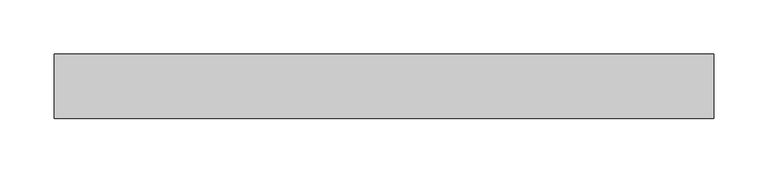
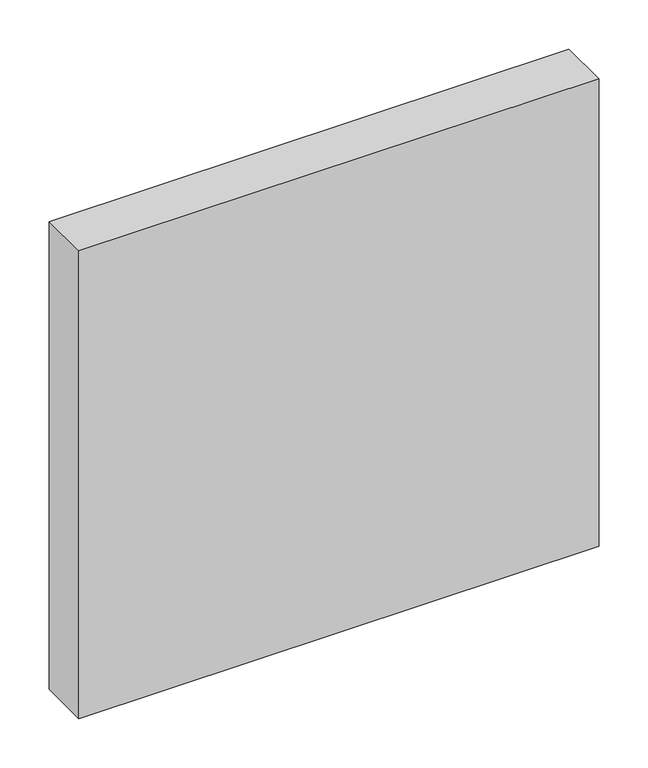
"""IFC4 building model written with IfcOpenShell, lengths in millimetres: plate geometry, Системная панель : Алюкобонд серый."""

from ifc_helpers import new_model, si_unit, origin, origin_with_axes, place, context, project, spatial, polyline, outline, extrude, source, transform, mapped, element, save


def plate_9b1b0864(model_context):
    return source(origin(), model_context, "Body", "SweptSolid", [
        extrude(outline(polyline([(305.0, -49.5), (-305.0, -49.5), (-305.0, 10.5), (305.0, 10.5), (305.0, -49.5)])), origin_with_axes(), (0.0, 0.0, 1.0), 580.0),
    ])


if __name__ == "__main__":
    model = new_model("IFC4")
    model_context = context("Model", 3, world=origin())
    ifc_project = project(units=[si_unit("LENGTHUNIT", "METRE", prefix="MILLI")], contexts=[model_context])
    site = spatial("IfcSite", under=ifc_project)
    building = spatial("IfcBuilding", under=site)
    placement = place(None, origin())
    plate_shape = plate_9b1b0864(model_context)
    element("IfcPlate", 1, ObjectType="Системная панель : Алюкобонд серый", at=placement, inside=building, context=model_context, shape_type="MappedRepresentation", body=[
        mapped(plate_shape, transform((0.0, 0.0, 0.0), x_axis=(1.0, 0.0, 0.0), y_axis=(0.0, 1.0, 0.0), z_axis=(0.0, 0.0, 1.0))),
    ])
    save(model, "model.ifc")
